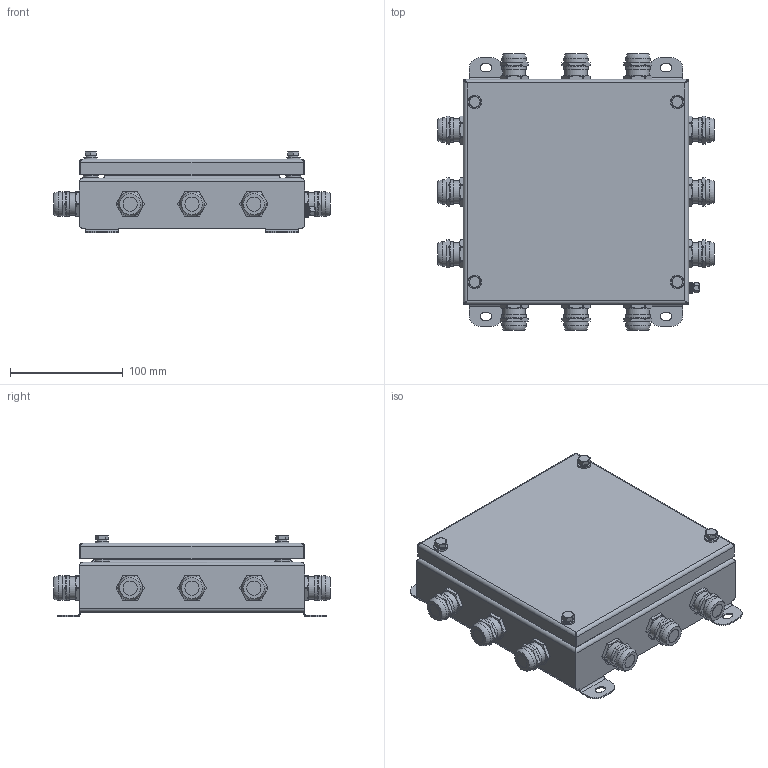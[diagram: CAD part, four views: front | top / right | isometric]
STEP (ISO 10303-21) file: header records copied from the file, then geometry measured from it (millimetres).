
FILE_DESCRIPTION(('STEP AP203'), '1');
FILE_NAME('Êîðîáêà 2020 IP66', '', ('UNSPECIFIED'), ('UNSPECIFIED'), 'ASCON STEP Converter 1.6', 'ASCON Math Kernel', '');
FILE_SCHEMA(('CONFIG_CONTROL_DESIGN'));
Length unit declared in the file: millimetre
Bounding box: 245.67 x 245.67 x 72.5 mm (x, y, z)
Volume: 2394551.1 mm3; surface area: 196303.8 mm2
Topology: 1 solids, 1 shells, 787 faces, 1963 edges, 1251 vertices
Faces by surface type: plane 370, cylinder 287, cone 104, torus 18, bspline 8
Full cylindrical faces by diameter (mm): 3.7 x1, 5 x2, 5.5 x2, 6 x4, 6.5 x1, 6.6 x4, 8.5 x4, 10 x2, 12 x4, 12.6 x12, 13 x4, 14 x4, 20 x12, 21.6 x24
Entity records: 44263 total; most frequent: CARTESIAN_POINT 7112, DIRECTION 3718, ORIENTED_EDGE 3666, PROPERTY_DEFINITION 2836, PROPERTY_DEFINITION_REPRESENTATION 2836, REPRESENTATION 2836, EDGE_CURVE 1833, GENERAL_PROPERTY_ASSOCIATION 1646
